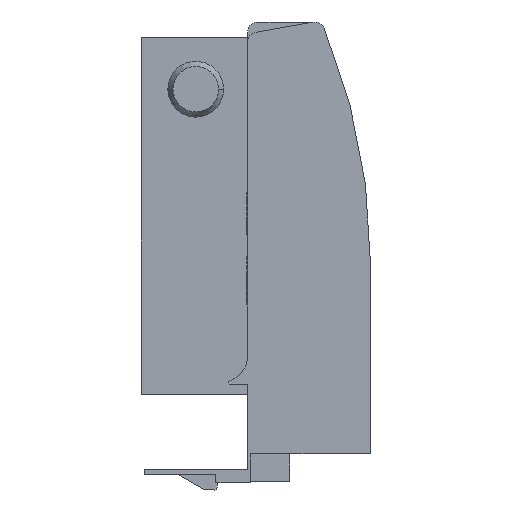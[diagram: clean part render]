
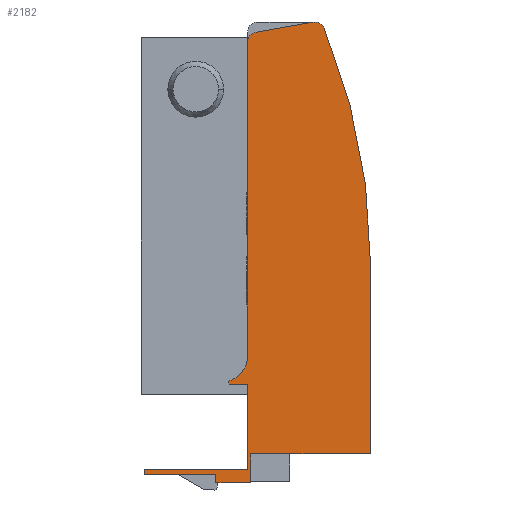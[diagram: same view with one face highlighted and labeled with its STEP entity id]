
A CAD part, front view. The second image highlights one B-rep face of the part: STEP entity #2182.
In plain terms, the highlighted planar face has unit normal (0, -1, 0).
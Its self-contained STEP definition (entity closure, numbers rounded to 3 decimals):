
#178 = VECTOR ( 'NONE', #750, 1000. ) ;
#179 = LINE ( 'NONE', #749, #178 ) ;
#193 = CIRCLE ( 'NONE', #624, 5. ) ;
#199 = VECTOR ( 'NONE', #727, 1000. ) ;
#200 = LINE ( 'NONE', #726, #199 ) ;
#203 = VECTOR ( 'NONE', #723, 1000. ) ;
#204 = LINE ( 'NONE', #722, #203 ) ;
#222 = VECTOR ( 'NONE', #705, 1000. ) ;
#223 = LINE ( 'NONE', #704, #222 ) ;
#224 = VECTOR ( 'NONE', #703, 1000. ) ;
#225 = LINE ( 'NONE', #702, #224 ) ;
#236 = VECTOR ( 'NONE', #395, 1000. ) ;
#237 = LINE ( 'NONE', #386, #236 ) ;
#256 = VECTOR ( 'NONE', #2126, 1000. ) ;
#257 = LINE ( 'NONE', #2125, #256 ) ;
#267 = VECTOR ( 'NONE', #2115, 1000. ) ;
#268 = LINE ( 'NONE', #2114, #267 ) ;
#275 = CIRCLE ( 'NONE', #617, 2. ) ;
#283 = VECTOR ( 'NONE', #2097, 1000. ) ;
#284 = LINE ( 'NONE', #2096, #283 ) ;
#285 = VECTOR ( 'NONE', #2095, 1000. ) ;
#286 = LINE ( 'NONE', #2094, #285 ) ;
#287 = VECTOR ( 'NONE', #2093, 1000. ) ;
#288 = LINE ( 'NONE', #2092, #287 ) ;
#289 = VECTOR ( 'NONE', #2091, 1000. ) ;
#290 = CIRCLE ( 'NONE', #615, 120.6 ) ;
#291 = LINE ( 'NONE', #2090, #289 ) ;
#292 = VECTOR ( 'NONE', #2086, 1000. ) ;
#293 = CIRCLE ( 'NONE', #614, 2. ) ;
#294 = LINE ( 'NONE', #2085, #292 ) ;
#386 = CARTESIAN_POINT ( 'NONE',  ( -21.5, 0., 0. ) ) ;
#395 = DIRECTION ( 'NONE',  ( 0., 0., -1. ) ) ;
#425 = EDGE_CURVE ( 'NONE', #1890, #1933, #293, .T. ) ;
#426 = EDGE_CURVE ( 'NONE', #1933, #1897, #294, .T. ) ;
#427 = EDGE_CURVE ( 'NONE', #2010, #2012, #290, .T. ) ;
#428 = EDGE_CURVE ( 'NONE', #1974, #1970, #291, .T. ) ;
#429 = EDGE_CURVE ( 'NONE', #1984, #1974, #288, .T. ) ;
#430 = EDGE_CURVE ( 'NONE', #2015, #1984, #286, .T. ) ;
#431 = EDGE_CURVE ( 'NONE', #1982, #1909, #284, .T. ) ;
#435 = EDGE_CURVE ( 'NONE', #2012, #1897, #275, .T. ) ;
#439 = EDGE_CURVE ( 'NONE', #1973, #2001, #268, .T. ) ;
#444 = EDGE_CURVE ( 'NONE', #2001, #2010, #257, .T. ) ;
#455 = EDGE_CURVE ( 'NONE', #1909, #1996, #237, .T. ) ;
#461 = EDGE_CURVE ( 'NONE', #1970, #1979, #225, .T. ) ;
#462 = EDGE_CURVE ( 'NONE', #1996, #2015, #223, .T. ) ;
#470 = EDGE_CURVE ( 'NONE', #1890, #1924, #204, .T. ) ;
#472 = EDGE_CURVE ( 'NONE', #1928, #1982, #200, .T. ) ;
#475 = EDGE_CURVE ( 'NONE', #1924, #1928, #193, .T. ) ;
#483 = EDGE_CURVE ( 'NONE', #1979, #1973, #179, .T. ) ;
#614 = AXIS2_PLACEMENT_3D ( 'NONE', #2082, #2083, #2084 ) ;
#615 = AXIS2_PLACEMENT_3D ( 'NONE', #2087, #2088, #2089 ) ;
#617 = AXIS2_PLACEMENT_3D ( 'NONE', #2105, #2106, #2107 ) ;
#624 = AXIS2_PLACEMENT_3D ( 'NONE', #732, #733, #734 ) ;
#685 = AXIS2_PLACEMENT_3D ( 'NONE', #1244, #1245, #1246 ) ;
#702 = CARTESIAN_POINT ( 'NONE',  ( -27.599, 0., -19.1 ) ) ;
#703 = DIRECTION ( 'NONE',  ( 1., 0., 0. ) ) ;
#704 = CARTESIAN_POINT ( 'NONE',  ( -21.5, 0., -16.5 ) ) ;
#705 = DIRECTION ( 'NONE',  ( -1., 0., 0. ) ) ;
#722 = CARTESIAN_POINT ( 'NONE',  ( -21.5, 0., 68. ) ) ;
#723 = DIRECTION ( 'NONE',  ( 0., 0., -1. ) ) ;
#726 = CARTESIAN_POINT ( 'NONE',  ( -25.161, 0., 0.578 ) ) ;
#727 = DIRECTION ( 'NONE',  ( 0.268, 0., -0.963 ) ) ;
#732 = CARTESIAN_POINT ( 'NONE',  ( -26.5, 0., 5.395 ) ) ;
#733 = DIRECTION ( 'NONE',  ( 0., 1., 0. ) ) ;
#734 = DIRECTION ( 'NONE',  ( 1., 0., 0. ) ) ;
#749 = CARTESIAN_POINT ( 'NONE',  ( -20.9, 0., -19.1 ) ) ;
#750 = DIRECTION ( 'NONE',  ( 0., 0., 1. ) ) ;
#985 = CARTESIAN_POINT ( 'NONE',  ( -21.5, 0., 66.06 ) ) ;
#992 = CARTESIAN_POINT ( 'NONE',  ( -8.847, 0., 69.97 ) ) ;
#996 = CARTESIAN_POINT ( 'NONE',  ( -21.5, 0., 0. ) ) ;
#1011 = CARTESIAN_POINT ( 'NONE',  ( -21.5, 0., 5.395 ) ) ;
#1015 = CARTESIAN_POINT ( 'NONE',  ( -25.161, 0., 0.578 ) ) ;
#1020 = CARTESIAN_POINT ( 'NONE',  ( -19.847, 0., 68.03 ) ) ;
#1031 = CARTESIAN_POINT ( 'NONE',  ( -27.599, 0., -19.1 ) ) ;
#1034 = CARTESIAN_POINT ( 'NONE',  ( -20.9, 0., -13.5 ) ) ;
#1035 = CARTESIAN_POINT ( 'NONE',  ( -27.599, 0., -17.528 ) ) ;
#1040 = CARTESIAN_POINT ( 'NONE',  ( -20.9, 0., -19.1 ) ) ;
#1043 = CARTESIAN_POINT ( 'NONE',  ( -25., 0., 0. ) ) ;
#1045 = CARTESIAN_POINT ( 'NONE',  ( -41.499, 0., -17.528 ) ) ;
#1057 = CARTESIAN_POINT ( 'NONE',  ( -21.5, 0., -16.5 ) ) ;
#1062 = CARTESIAN_POINT ( 'NONE',  ( 2.3, 0., -13.5 ) ) ;
#1071 = CARTESIAN_POINT ( 'NONE',  ( 2.3, 0., 23.168 ) ) ;
#1073 = CARTESIAN_POINT ( 'NONE',  ( -6.648, 0., 68.756 ) ) ;
#1076 = CARTESIAN_POINT ( 'NONE',  ( -41.499, 0., -16.5 ) ) ;
#1243 = PLANE ( 'NONE',  #685 ) ;
#1244 = CARTESIAN_POINT ( 'NONE',  ( -4.5, 0., 34.728 ) ) ;
#1245 = DIRECTION ( 'NONE',  ( 0., -1., 0. ) ) ;
#1246 = DIRECTION ( 'NONE',  ( 1., 0., 0. ) ) ;
#1342 = EDGE_LOOP ( 'NONE', ( #1458, #1459, #1460, #1461, #1462, #1463, #1465, #1466, #1467, #1468, #1469, #1470, #1471, #1472, #1473, #1474, #1475 ) ) ;
#1458 = ORIENTED_EDGE ( 'NONE', *, *, #472, .T. ) ;
#1459 = ORIENTED_EDGE ( 'NONE', *, *, #431, .T. ) ;
#1460 = ORIENTED_EDGE ( 'NONE', *, *, #455, .T. ) ;
#1461 = ORIENTED_EDGE ( 'NONE', *, *, #462, .T. ) ;
#1462 = ORIENTED_EDGE ( 'NONE', *, *, #430, .T. ) ;
#1463 = ORIENTED_EDGE ( 'NONE', *, *, #429, .T. ) ;
#1465 = ORIENTED_EDGE ( 'NONE', *, *, #428, .T. ) ;
#1466 = ORIENTED_EDGE ( 'NONE', *, *, #461, .T. ) ;
#1467 = ORIENTED_EDGE ( 'NONE', *, *, #483, .T. ) ;
#1468 = ORIENTED_EDGE ( 'NONE', *, *, #439, .T. ) ;
#1469 = ORIENTED_EDGE ( 'NONE', *, *, #444, .T. ) ;
#1470 = ORIENTED_EDGE ( 'NONE', *, *, #427, .T. ) ;
#1471 = ORIENTED_EDGE ( 'NONE', *, *, #435, .T. ) ;
#1472 = ORIENTED_EDGE ( 'NONE', *, *, #426, .F. ) ;
#1473 = ORIENTED_EDGE ( 'NONE', *, *, #425, .F. ) ;
#1474 = ORIENTED_EDGE ( 'NONE', *, *, #470, .T. ) ;
#1475 = ORIENTED_EDGE ( 'NONE', *, *, #475, .T. ) ;
#1753 = FACE_OUTER_BOUND ( 'NONE', #1342, .T. ) ;
#1890 = VERTEX_POINT ( 'NONE', #985 ) ;
#1897 = VERTEX_POINT ( 'NONE', #992 ) ;
#1909 = VERTEX_POINT ( 'NONE', #996 ) ;
#1924 = VERTEX_POINT ( 'NONE', #1011 ) ;
#1928 = VERTEX_POINT ( 'NONE', #1015 ) ;
#1933 = VERTEX_POINT ( 'NONE', #1020 ) ;
#1970 = VERTEX_POINT ( 'NONE', #1031 ) ;
#1973 = VERTEX_POINT ( 'NONE', #1034 ) ;
#1974 = VERTEX_POINT ( 'NONE', #1035 ) ;
#1979 = VERTEX_POINT ( 'NONE', #1040 ) ;
#1982 = VERTEX_POINT ( 'NONE', #1043 ) ;
#1984 = VERTEX_POINT ( 'NONE', #1045 ) ;
#1996 = VERTEX_POINT ( 'NONE', #1057 ) ;
#2001 = VERTEX_POINT ( 'NONE', #1062 ) ;
#2010 = VERTEX_POINT ( 'NONE', #1071 ) ;
#2012 = VERTEX_POINT ( 'NONE', #1073 ) ;
#2015 = VERTEX_POINT ( 'NONE', #1076 ) ;
#2082 = CARTESIAN_POINT ( 'NONE',  ( -19.5, 0., 66.06 ) ) ;
#2083 = DIRECTION ( 'NONE',  ( 0., 1., 0. ) ) ;
#2084 = DIRECTION ( 'NONE',  ( 1., 0., 0. ) ) ;
#2085 = CARTESIAN_POINT ( 'NONE',  ( -8.847, 0., 69.97 ) ) ;
#2086 = DIRECTION ( 'NONE',  ( 0.985, 0., 0.174 ) ) ;
#2087 = CARTESIAN_POINT ( 'NONE',  ( -118.3, 0., 23.168 ) ) ;
#2088 = DIRECTION ( 'NONE',  ( 0., -1., 0. ) ) ;
#2089 = DIRECTION ( 'NONE',  ( 1., 0., 0. ) ) ;
#2090 = CARTESIAN_POINT ( 'NONE',  ( -27.599, 0., -17.528 ) ) ;
#2091 = DIRECTION ( 'NONE',  ( 0., 0., -1. ) ) ;
#2092 = CARTESIAN_POINT ( 'NONE',  ( -41.499, 0., -17.528 ) ) ;
#2093 = DIRECTION ( 'NONE',  ( 1., 0., 0. ) ) ;
#2094 = CARTESIAN_POINT ( 'NONE',  ( -41.499, 0., -16.5 ) ) ;
#2095 = DIRECTION ( 'NONE',  ( 0., 0., -1. ) ) ;
#2096 = CARTESIAN_POINT ( 'NONE',  ( -25., 0., 0. ) ) ;
#2097 = DIRECTION ( 'NONE',  ( 1., 0., 0. ) ) ;
#2105 = CARTESIAN_POINT ( 'NONE',  ( -8.5, 0., 68. ) ) ;
#2106 = DIRECTION ( 'NONE',  ( 0., -1., 0. ) ) ;
#2107 = DIRECTION ( 'NONE',  ( 1., 0., 0. ) ) ;
#2114 = CARTESIAN_POINT ( 'NONE',  ( -21.5, 0., -13.5 ) ) ;
#2115 = DIRECTION ( 'NONE',  ( 1., 0., 0. ) ) ;
#2125 = CARTESIAN_POINT ( 'NONE',  ( 2.3, 0., -13.5 ) ) ;
#2126 = DIRECTION ( 'NONE',  ( 0., 0., 1. ) ) ;
#2182 = ADVANCED_FACE ( 'NONE', ( #1753 ), #1243, .T. ) ;
